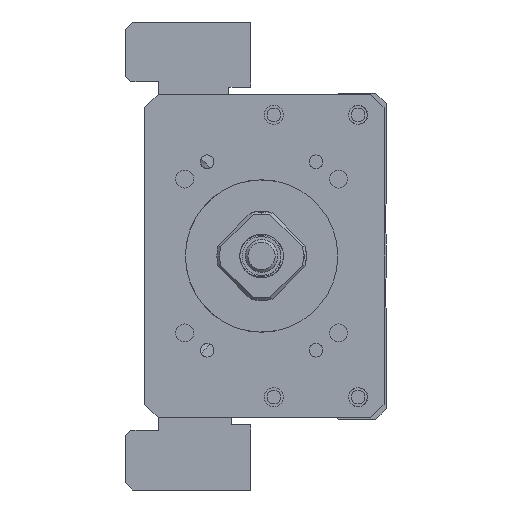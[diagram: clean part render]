
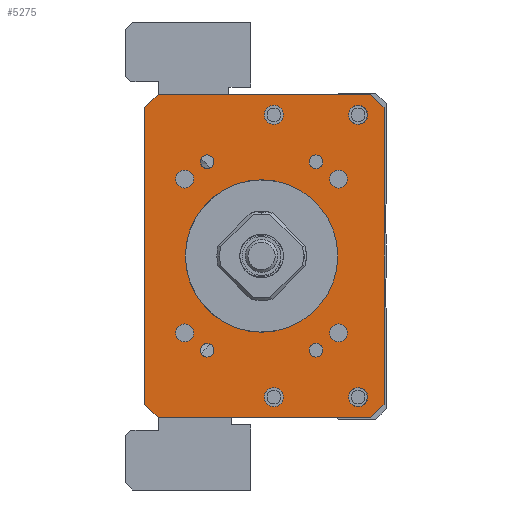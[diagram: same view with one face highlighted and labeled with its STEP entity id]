
A CAD part, left-side view. The second image highlights one B-rep face of the part: STEP entity #5275.
In plain terms, the highlighted planar face has unit normal (-1, 0, 0).
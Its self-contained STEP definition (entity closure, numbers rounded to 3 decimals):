
#4306=FACE_BOUND('',#6914,.T.);
#4307=FACE_BOUND('',#6915,.T.);
#4308=FACE_BOUND('',#6916,.T.);
#4309=FACE_BOUND('',#6917,.T.);
#4310=FACE_BOUND('',#6918,.T.);
#4311=FACE_BOUND('',#6919,.T.);
#4312=FACE_BOUND('',#6920,.T.);
#4313=FACE_BOUND('',#6921,.T.);
#4314=FACE_BOUND('',#6922,.T.);
#4315=FACE_BOUND('',#6923,.T.);
#4316=FACE_BOUND('',#6924,.T.);
#4317=FACE_BOUND('',#6925,.T.);
#4318=FACE_BOUND('',#6926,.T.);
#4319=FACE_BOUND('',#6927,.T.);
#4687=CIRCLE('',#15048,14.);
#4696=CIRCLE('',#15059,1.65);
#4697=CIRCLE('',#15060,1.65);
#4698=CIRCLE('',#15061,1.65);
#4699=CIRCLE('',#15062,1.65);
#4700=CIRCLE('',#15063,1.25);
#4701=CIRCLE('',#15064,1.75);
#4702=CIRCLE('',#15065,1.25);
#4703=CIRCLE('',#15066,1.75);
#4704=CIRCLE('',#15067,1.25);
#4705=CIRCLE('',#15068,1.75);
#4706=CIRCLE('',#15069,1.75);
#4707=CIRCLE('',#15070,1.25);
#5275=ADVANCED_FACE('',(#4306,#4307,#4308,#4309,#4310,#4311,#4312,#4313,
#4314,#4315,#4316,#4317,#4318,#4319),#5764,.F.);
#5764=PLANE('',#15071);
#6914=EDGE_LOOP('',(#9360));
#6915=EDGE_LOOP('',(#9361));
#6916=EDGE_LOOP('',(#9362));
#6917=EDGE_LOOP('',(#9363));
#6918=EDGE_LOOP('',(#9364));
#6919=EDGE_LOOP('',(#9365));
#6920=EDGE_LOOP('',(#9366));
#6921=EDGE_LOOP('',(#9367));
#6922=EDGE_LOOP('',(#9368));
#6923=EDGE_LOOP('',(#9369,#9370,#9371,#9372,#9373,#9374,#9375,#9376));
#6924=EDGE_LOOP('',(#9377));
#6925=EDGE_LOOP('',(#9378));
#6926=EDGE_LOOP('',(#9379));
#6927=EDGE_LOOP('',(#9380));
#9360=ORIENTED_EDGE('',*,*,#12177,.F.);
#9361=ORIENTED_EDGE('',*,*,#12178,.F.);
#9362=ORIENTED_EDGE('',*,*,#12179,.F.);
#9363=ORIENTED_EDGE('',*,*,#12180,.F.);
#9364=ORIENTED_EDGE('',*,*,#12181,.F.);
#9365=ORIENTED_EDGE('',*,*,#12182,.T.);
#9366=ORIENTED_EDGE('',*,*,#12183,.F.);
#9367=ORIENTED_EDGE('',*,*,#12184,.F.);
#9368=ORIENTED_EDGE('',*,*,#12185,.F.);
#9369=ORIENTED_EDGE('',*,*,#12174,.T.);
#9370=ORIENTED_EDGE('',*,*,#12186,.T.);
#9371=ORIENTED_EDGE('',*,*,#12187,.F.);
#9372=ORIENTED_EDGE('',*,*,#12188,.T.);
#9373=ORIENTED_EDGE('',*,*,#12189,.F.);
#9374=ORIENTED_EDGE('',*,*,#12190,.T.);
#9375=ORIENTED_EDGE('',*,*,#12191,.T.);
#9376=ORIENTED_EDGE('',*,*,#12192,.T.);
#9377=ORIENTED_EDGE('',*,*,#12193,.F.);
#9378=ORIENTED_EDGE('',*,*,#12194,.F.);
#9379=ORIENTED_EDGE('',*,*,#12195,.F.);
#9380=ORIENTED_EDGE('',*,*,#12154,.F.);
#10833=VERTEX_POINT('',#21165);
#10853=VERTEX_POINT('',#21225);
#10854=VERTEX_POINT('',#21227);
#10856=VERTEX_POINT('',#21233);
#10857=VERTEX_POINT('',#21235);
#10858=VERTEX_POINT('',#21237);
#10859=VERTEX_POINT('',#21239);
#10860=VERTEX_POINT('',#21241);
#10861=VERTEX_POINT('',#21243);
#10862=VERTEX_POINT('',#21245);
#10863=VERTEX_POINT('',#21247);
#10864=VERTEX_POINT('',#21249);
#10865=VERTEX_POINT('',#21251);
#10866=VERTEX_POINT('',#21253);
#10867=VERTEX_POINT('',#21255);
#10868=VERTEX_POINT('',#21257);
#10869=VERTEX_POINT('',#21259);
#10870=VERTEX_POINT('',#21261);
#10871=VERTEX_POINT('',#21264);
#10872=VERTEX_POINT('',#21266);
#10873=VERTEX_POINT('',#21268);
#12154=EDGE_CURVE('',#10833,#10833,#4687,.T.);
#12174=EDGE_CURVE('',#10854,#10853,#13284,.T.);
#12177=EDGE_CURVE('',#10856,#10856,#4696,.T.);
#12178=EDGE_CURVE('',#10857,#10857,#4697,.T.);
#12179=EDGE_CURVE('',#10858,#10858,#4698,.T.);
#12180=EDGE_CURVE('',#10859,#10859,#4699,.T.);
#12181=EDGE_CURVE('',#10860,#10860,#4700,.T.);
#12182=EDGE_CURVE('',#10861,#10861,#4701,.T.);
#12183=EDGE_CURVE('',#10862,#10862,#4702,.T.);
#12184=EDGE_CURVE('',#10863,#10863,#4703,.T.);
#12185=EDGE_CURVE('',#10864,#10864,#4704,.T.);
#12186=EDGE_CURVE('',#10853,#10865,#13286,.T.);
#12187=EDGE_CURVE('',#10866,#10865,#13287,.T.);
#12188=EDGE_CURVE('',#10866,#10867,#13288,.T.);
#12189=EDGE_CURVE('',#10868,#10867,#13289,.T.);
#12190=EDGE_CURVE('',#10868,#10869,#13290,.T.);
#12191=EDGE_CURVE('',#10869,#10870,#13291,.T.);
#12192=EDGE_CURVE('',#10870,#10854,#13292,.T.);
#12193=EDGE_CURVE('',#10871,#10871,#4705,.T.);
#12194=EDGE_CURVE('',#10872,#10872,#4706,.T.);
#12195=EDGE_CURVE('',#10873,#10873,#4707,.T.);
#13284=LINE('',#21226,#14179);
#13286=LINE('',#21250,#14181);
#13287=LINE('',#21252,#14182);
#13288=LINE('',#21254,#14183);
#13289=LINE('',#21256,#14184);
#13290=LINE('',#21258,#14185);
#13291=LINE('',#21260,#14186);
#13292=LINE('',#21262,#14187);
#14179=VECTOR('',#17588,1.);
#14181=VECTOR('',#17612,1.);
#14182=VECTOR('',#17613,1.);
#14183=VECTOR('',#17614,1.);
#14184=VECTOR('',#17615,1.);
#14185=VECTOR('',#17616,1.);
#14186=VECTOR('',#17617,1.);
#14187=VECTOR('',#17618,1.);
#15048=AXIS2_PLACEMENT_3D('',#21164,#17562,#17563);
#15059=AXIS2_PLACEMENT_3D('',#21232,#17594,#17595);
#15060=AXIS2_PLACEMENT_3D('',#21234,#17596,#17597);
#15061=AXIS2_PLACEMENT_3D('',#21236,#17598,#17599);
#15062=AXIS2_PLACEMENT_3D('',#21238,#17600,#17601);
#15063=AXIS2_PLACEMENT_3D('',#21240,#17602,#17603);
#15064=AXIS2_PLACEMENT_3D('',#21242,#17604,#17605);
#15065=AXIS2_PLACEMENT_3D('',#21244,#17606,#17607);
#15066=AXIS2_PLACEMENT_3D('',#21246,#17608,#17609);
#15067=AXIS2_PLACEMENT_3D('',#21248,#17610,#17611);
#15068=AXIS2_PLACEMENT_3D('',#21263,#17619,#17620);
#15069=AXIS2_PLACEMENT_3D('',#21265,#17621,#17622);
#15070=AXIS2_PLACEMENT_3D('',#21267,#17623,#17624);
#15071=AXIS2_PLACEMENT_3D('',#21269,#17625,#17626);
#17562=DIRECTION('',(-1.,0.,0.));
#17563=DIRECTION('',(0.,1.,0.));
#17588=DIRECTION('',(0.,0.,-1.));
#17594=DIRECTION('',(-1.,0.,0.));
#17595=DIRECTION('',(0.,0.,1.));
#17596=DIRECTION('',(-1.,0.,0.));
#17597=DIRECTION('',(0.,0.,1.));
#17598=DIRECTION('',(-1.,0.,0.));
#17599=DIRECTION('',(0.,0.,1.));
#17600=DIRECTION('',(-1.,0.,0.));
#17601=DIRECTION('',(0.,0.,1.));
#17602=DIRECTION('',(-1.,0.,0.));
#17603=DIRECTION('',(0.,1.,0.));
#17604=DIRECTION('',(1.,0.,0.));
#17605=DIRECTION('',(0.,0.,1.));
#17606=DIRECTION('',(-1.,0.,0.));
#17607=DIRECTION('',(0.,1.,0.));
#17608=DIRECTION('',(-1.,0.,0.));
#17609=DIRECTION('',(0.,0.,1.));
#17610=DIRECTION('',(-1.,0.,0.));
#17611=DIRECTION('',(0.,1.,0.));
#17612=DIRECTION('',(0.,-0.707,-0.707));
#17613=DIRECTION('',(0.,1.,0.));
#17614=DIRECTION('',(0.,-0.707,0.707));
#17615=DIRECTION('',(0.,0.,-1.));
#17616=DIRECTION('',(0.,0.707,0.707));
#17617=DIRECTION('',(0.,1.,0.));
#17618=DIRECTION('',(0.,0.707,-0.707));
#17619=DIRECTION('',(-1.,0.,0.));
#17620=DIRECTION('',(0.,0.,1.));
#17621=DIRECTION('',(-1.,0.,0.));
#17622=DIRECTION('',(0.,0.,1.));
#17623=DIRECTION('',(-1.,0.,0.));
#17624=DIRECTION('',(0.,1.,0.));
#17625=DIRECTION('',(1.,0.,0.));
#17626=DIRECTION('',(0.,1.,0.));
#21164=CARTESIAN_POINT('',(-211.,0.,-400.));
#21165=CARTESIAN_POINT('',(-211.,14.,-400.));
#21225=CARTESIAN_POINT('',(-211.,21.499,-427.25));
#21226=CARTESIAN_POINT('',(-211.,21.499,-370.25));
#21227=CARTESIAN_POINT('',(-211.,21.499,-372.75));
#21232=CARTESIAN_POINT('',(-211.,14.142,-385.858));
#21233=CARTESIAN_POINT('',(-211.,14.142,-384.208));
#21234=CARTESIAN_POINT('',(-211.,-14.142,-385.858));
#21235=CARTESIAN_POINT('',(-211.,-14.142,-384.208));
#21236=CARTESIAN_POINT('',(-211.,14.142,-414.142));
#21237=CARTESIAN_POINT('',(-211.,14.142,-412.492));
#21238=CARTESIAN_POINT('',(-211.,-14.142,-414.142));
#21239=CARTESIAN_POINT('',(-211.,-14.142,-412.492));
#21240=CARTESIAN_POINT('',(-211.,-10.,-417.321));
#21241=CARTESIAN_POINT('',(-211.,-8.75,-417.321));
#21242=CARTESIAN_POINT('',(-211.,-2.25,-425.936));
#21243=CARTESIAN_POINT('',(-211.,-2.25,-424.186));
#21244=CARTESIAN_POINT('',(-211.,10.,-382.679));
#21245=CARTESIAN_POINT('',(-211.,11.25,-382.679));
#21246=CARTESIAN_POINT('',(-211.,-2.25,-374.064));
#21247=CARTESIAN_POINT('',(-211.,-2.25,-372.314));
#21248=CARTESIAN_POINT('',(-211.,10.,-417.321));
#21249=CARTESIAN_POINT('',(-211.,11.25,-417.321));
#21250=CARTESIAN_POINT('',(-211.,18.999,-429.75));
#21251=CARTESIAN_POINT('',(-211.,18.999,-429.75));
#21252=CARTESIAN_POINT('',(-211.,-22.501,-429.75));
#21253=CARTESIAN_POINT('',(-211.,-20.001,-429.75));
#21254=CARTESIAN_POINT('',(-211.,-22.501,-427.25));
#21255=CARTESIAN_POINT('',(-211.,-22.501,-427.25));
#21256=CARTESIAN_POINT('',(-211.,-22.501,-370.25));
#21257=CARTESIAN_POINT('',(-211.,-22.501,-372.75));
#21258=CARTESIAN_POINT('',(-211.,-22.501,-372.75));
#21259=CARTESIAN_POINT('',(-211.,-20.001,-370.25));
#21260=CARTESIAN_POINT('',(-211.,-22.501,-370.25));
#21261=CARTESIAN_POINT('',(-211.,18.999,-370.25));
#21262=CARTESIAN_POINT('',(-211.,18.999,-370.25));
#21263=CARTESIAN_POINT('',(-211.,-17.75,-374.064));
#21264=CARTESIAN_POINT('',(-211.,-17.75,-372.314));
#21265=CARTESIAN_POINT('',(-211.,-17.75,-425.936));
#21266=CARTESIAN_POINT('',(-211.,-17.75,-424.186));
#21267=CARTESIAN_POINT('',(-211.,-10.,-382.679));
#21268=CARTESIAN_POINT('',(-211.,-8.75,-382.679));
#21269=CARTESIAN_POINT('',(-211.,-22.501,-370.25));
